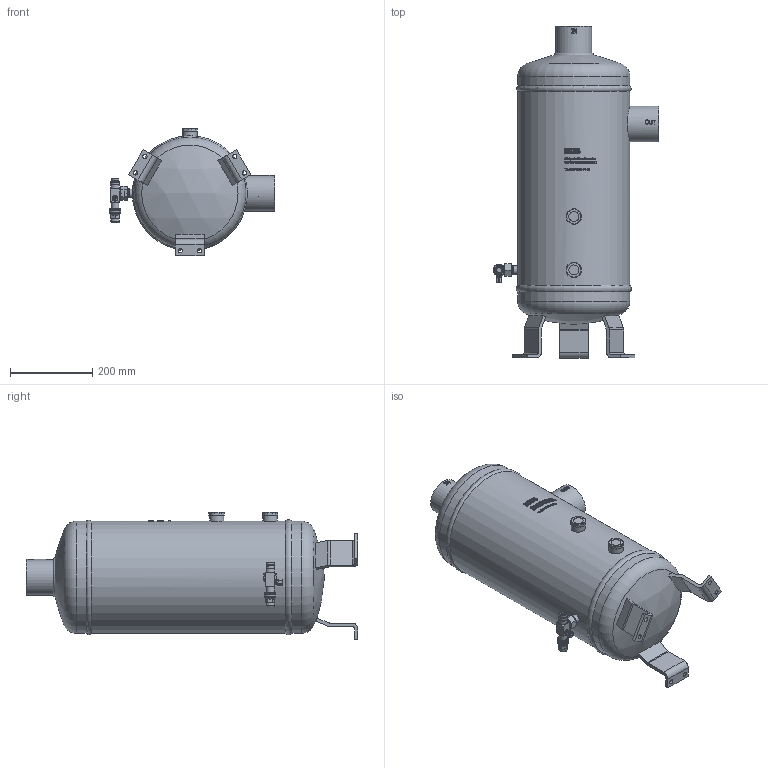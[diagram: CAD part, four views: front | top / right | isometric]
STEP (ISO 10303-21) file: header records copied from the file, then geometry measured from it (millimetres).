
FILE_DESCRIPTION(/* description */ (''),/* implementation_level */ '2;1');
FILE_NAME(/* name */ 'P:\OSR\OSR-14-80\OSR-14-80.stp',/* time_stamp */ '2017-10-05T09:02:22+02:00',/* author */ ('neufeld'),/* organization */ (''),/* preprocessor_version */ 'ST-DEVELOPER v16.1',/* originating_system */ 'Autodesk Inventor 2016',/* authorisation */ '');
FILE_SCHEMA (('AUTOMOTIVE_DESIGN { 1 0 10303 214 3 1 1 }'));
Length unit declared in the file: millimetre
Products named in the file (3): OSR-14-80_1; OSR-14-80_2; OSR-14-80
Assembly tree (2 placements, depth 2):
  OSR-14-80
    OSR-14-80_1
    OSR-14-80_2
Bounding box: 402.54 x 807.64 x 309.55 mm (x, y, z)
Volume: 37257367.8 mm3; surface area: 776669.5 mm2
Topology: 2 solids, 5 shells, 1683 faces, 4493 edges, 2968 vertices
Faces by surface type: plane 845, bspline 506, cylinder 259, cone 61, torus 10, sphere 2
Full cylindrical faces by diameter (mm): 4 x1, 6.5 x1, 9 x1, 9.4 x1, 10.1 x1, 10.5 x6, 10.72 x1, 11 x1, 12.5 x1, 13.3 x1, 13.5 x1, 14 x1, 14.2 x1, 15.75 x1, 15.87 x1, 16.15 x1, 16.7 x1, 16.8 x1, 17.3 x1, 18.3 x1, 19 x2, 19.05 x1, 19.9 x1, 20 x5, 22.5 x2, 23 x1, 23.6 x1, 24.2 x2, 25 x1, 25.2 x1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
Entity records: 62493 total; most frequent: CARTESIAN_POINT 23551, ORIENTED_EDGE 8768, DIRECTION 6829, EDGE_CURVE 4372, VERTEX_POINT 2942, AXIS2_PLACEMENT_3D 2387, LINE 2055, VECTOR 2055
